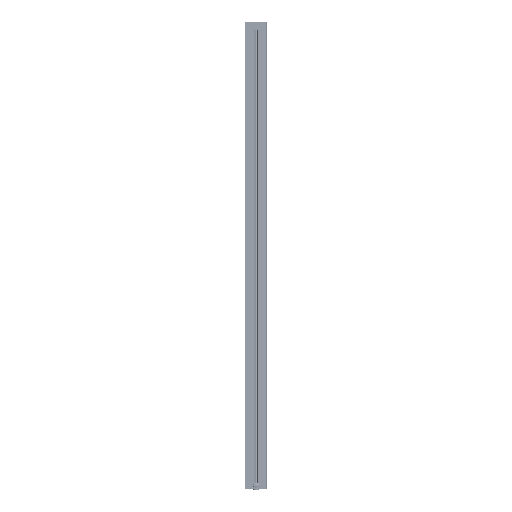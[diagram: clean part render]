
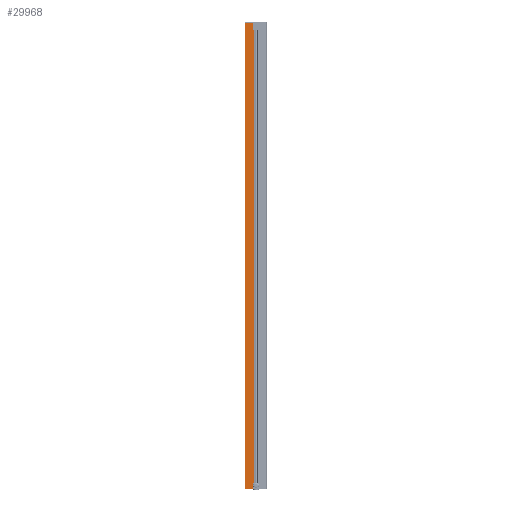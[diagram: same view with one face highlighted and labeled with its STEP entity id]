
A CAD part, left-side view. The second image highlights one B-rep face of the part: STEP entity #29968.
In plain terms, the highlighted planar face has unit normal (-1, 0, 0).
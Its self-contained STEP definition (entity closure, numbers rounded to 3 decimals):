
#379 = CARTESIAN_POINT ( 'NONE',  ( -16., 13.85, -987.3 ) ) ;
#793 = EDGE_LOOP ( 'NONE', ( #12129, #9893, #9284, #32730, #20455, #31123, #20336, #20636 ) ) ;
#861 = VERTEX_POINT ( 'NONE', #4412 ) ;
#1524 = VERTEX_POINT ( 'NONE', #379 ) ;
#1952 = LINE ( 'NONE', #24961, #2922 ) ;
#2922 = VECTOR ( 'NONE', #18733, 1000. ) ;
#3183 = PLANE ( 'NONE',  #26785 ) ;
#3693 = EDGE_CURVE ( 'NONE', #20740, #33099, #1952, .T. ) ;
#4262 = CARTESIAN_POINT ( 'NONE',  ( -16., 8.487, 1017. ) ) ;
#4412 = CARTESIAN_POINT ( 'NONE',  ( -16., 13.85, -1016.9 ) ) ;
#4611 = CARTESIAN_POINT ( 'NONE',  ( -16., 13.85, 1017. ) ) ;
#5176 = CARTESIAN_POINT ( 'NONE',  ( -16., 8.776, 987.3 ) ) ;
#5449 = DIRECTION ( 'NONE',  ( 0., 1., 0. ) ) ;
#5719 = EDGE_CURVE ( 'NONE', #10922, #20685, #24640, .T. ) ;
#5969 = VECTOR ( 'NONE', #35412, 1000. ) ;
#6070 = EDGE_CURVE ( 'NONE', #20565, #10922, #17627, .T. ) ;
#8587 = VECTOR ( 'NONE', #24439, 1000. ) ;
#9284 = ORIENTED_EDGE ( 'NONE', *, *, #23990, .T. ) ;
#9643 = DIRECTION ( 'NONE',  ( 0., -1., 0. ) ) ;
#9893 = ORIENTED_EDGE ( 'NONE', *, *, #31868, .T. ) ;
#10922 = VERTEX_POINT ( 'NONE', #19662 ) ;
#12129 = ORIENTED_EDGE ( 'NONE', *, *, #13589, .T. ) ;
#13589 = EDGE_CURVE ( 'NONE', #861, #1524, #19722, .T. ) ;
#14550 = LINE ( 'NONE', #20952, #17211 ) ;
#16637 = DIRECTION ( 'NONE',  ( 0., 0., 1. ) ) ;
#17211 = VECTOR ( 'NONE', #35137, 1000. ) ;
#17627 = LINE ( 'NONE', #25955, #26077 ) ;
#17647 = CARTESIAN_POINT ( 'NONE',  ( -16., 13.85, -1017. ) ) ;
#18733 = DIRECTION ( 'NONE',  ( 0., 0., -1. ) ) ;
#19662 = CARTESIAN_POINT ( 'NONE',  ( -16., 13.85, 987.3 ) ) ;
#19722 = LINE ( 'NONE', #17647, #33188 ) ;
#20033 = CARTESIAN_POINT ( 'NONE',  ( -16., 46.5, 1017. ) ) ;
#20336 = ORIENTED_EDGE ( 'NONE', *, *, #3693, .T. ) ;
#20455 = ORIENTED_EDGE ( 'NONE', *, *, #6070, .F. ) ;
#20565 = VERTEX_POINT ( 'NONE', #4611 ) ;
#20636 = ORIENTED_EDGE ( 'NONE', *, *, #31929, .T. ) ;
#20685 = VERTEX_POINT ( 'NONE', #5176 ) ;
#20740 = VERTEX_POINT ( 'NONE', #20033 ) ;
#20952 = CARTESIAN_POINT ( 'NONE',  ( -16., 13.85, -987.3 ) ) ;
#22605 = CARTESIAN_POINT ( 'NONE',  ( -16., 8.487, 1017. ) ) ;
#23990 = EDGE_CURVE ( 'NONE', #28922, #20685, #34185, .T. ) ;
#23993 = CARTESIAN_POINT ( 'NONE',  ( -16., 8.487, -1016.9 ) ) ;
#24439 = DIRECTION ( 'NONE',  ( 0., -1., 0. ) ) ;
#24640 = LINE ( 'NONE', #36147, #5969 ) ;
#24961 = CARTESIAN_POINT ( 'NONE',  ( -16., 46.5, 1017. ) ) ;
#25068 = VECTOR ( 'NONE', #9643, 1000. ) ;
#25955 = CARTESIAN_POINT ( 'NONE',  ( -16., 13.85, 1017. ) ) ;
#25980 = EDGE_CURVE ( 'NONE', #20740, #20565, #36131, .T. ) ;
#26077 = VECTOR ( 'NONE', #26142, 1000. ) ;
#26142 = DIRECTION ( 'NONE',  ( 0., 0., -1. ) ) ;
#26785 = AXIS2_PLACEMENT_3D ( 'NONE', #22605, #31662, #5449 ) ;
#28922 = VERTEX_POINT ( 'NONE', #33575 ) ;
#28973 = CARTESIAN_POINT ( 'NONE',  ( -16., 46.5, -1016.9 ) ) ;
#29968 = ADVANCED_FACE ( 'NONE', ( #31292 ), #3183, .F. ) ;
#31123 = ORIENTED_EDGE ( 'NONE', *, *, #25980, .F. ) ;
#31292 = FACE_OUTER_BOUND ( 'NONE', #793, .T. ) ;
#31662 = DIRECTION ( 'NONE',  ( 1., 0., 0. ) ) ;
#31868 = EDGE_CURVE ( 'NONE', #1524, #28922, #14550, .T. ) ;
#31929 = EDGE_CURVE ( 'NONE', #33099, #861, #32678, .T. ) ;
#32678 = LINE ( 'NONE', #23993, #25068 ) ;
#32730 = ORIENTED_EDGE ( 'NONE', *, *, #5719, .F. ) ;
#33099 = VERTEX_POINT ( 'NONE', #28973 ) ;
#33188 = VECTOR ( 'NONE', #34458, 1000. ) ;
#33575 = CARTESIAN_POINT ( 'NONE',  ( -16., 8.776, -987.3 ) ) ;
#33640 = CARTESIAN_POINT ( 'NONE',  ( -16., 8.776, 1017. ) ) ;
#34185 = LINE ( 'NONE', #33640, #34996 ) ;
#34458 = DIRECTION ( 'NONE',  ( 0., 0., 1. ) ) ;
#34996 = VECTOR ( 'NONE', #16637, 1000. ) ;
#35137 = DIRECTION ( 'NONE',  ( 0., -1., 0. ) ) ;
#35412 = DIRECTION ( 'NONE',  ( 0., -1., 0. ) ) ;
#36131 = LINE ( 'NONE', #4262, #8587 ) ;
#36147 = CARTESIAN_POINT ( 'NONE',  ( -16., 13.85, 987.3 ) ) ;
